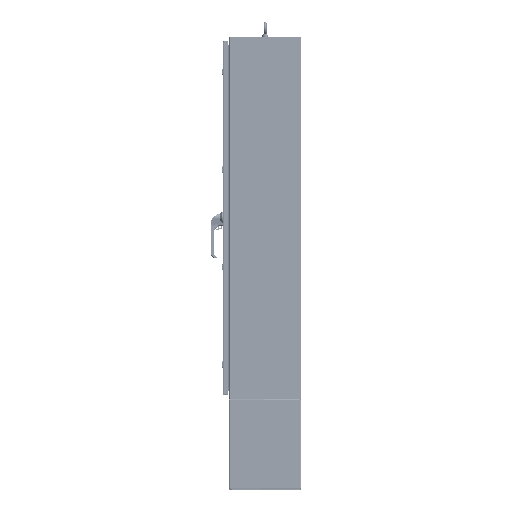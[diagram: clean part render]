
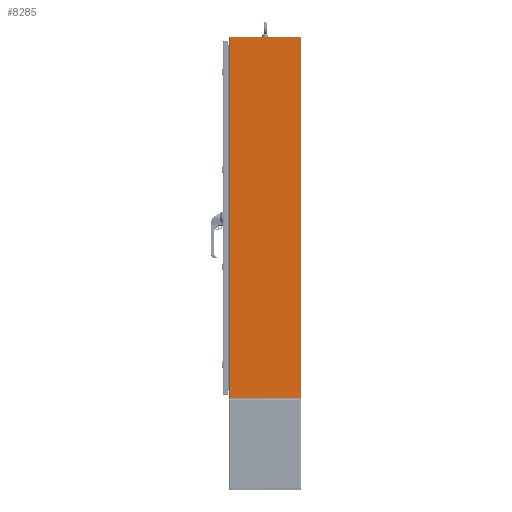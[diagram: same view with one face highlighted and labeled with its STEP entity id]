
A CAD part, top view. The second image highlights one B-rep face of the part: STEP entity #8285.
In plain terms, the highlighted planar face has unit normal (0, 0, 1) as drawn and (-1, 0, 0) by its records, which use the part's own axes.
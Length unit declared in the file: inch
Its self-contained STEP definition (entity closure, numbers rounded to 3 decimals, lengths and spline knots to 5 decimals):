
#7034=CARTESIAN_POINT('',(-3.6355,9.7005,-59.732));
#7035=DIRECTION('',(-1.,0.,0.));
#7036=DIRECTION('',(0.,1.,0.));
#7037=AXIS2_PLACEMENT_3D('',#7034,#7035,#7036);
#7042=DIRECTION('',(0.,0.,-1.));
#7043=VECTOR('',#7042,59.672);
#7044=CARTESIAN_POINT('',(-3.6355,9.7605,-0.06));
#7045=LINE('',#7044,#7043);
#7049=CARTESIAN_POINT('',(-3.6355,9.7005,-0.06));
#7050=DIRECTION('',(-1.,0.,0.));
#7051=DIRECTION('',(0.,0.,1.));
#7052=AXIS2_PLACEMENT_3D('',#7049,#7050,#7051);
#7064=DIRECTION('',(0.,-1.,0.));
#7065=VECTOR('',#7064,11.6415);
#7066=CARTESIAN_POINT('',(-3.6355,9.7005,-59.792));
#7067=LINE('',#7066,#7065);
#7107=DIRECTION('',(0.,0.,-1.));
#7108=VECTOR('',#7107,59.792);
#7109=CARTESIAN_POINT('',(-3.6355,-1.941,0.));
#7110=LINE('',#7109,#7108);
#7284=DIRECTION('',(0.,-1.,0.));
#7285=VECTOR('',#7284,11.6415);
#7286=CARTESIAN_POINT('',(-3.6355,9.7005,0.));
#7287=LINE('',#7286,#7285);
#8094=CARTESIAN_POINT('',(-3.6355,-1.941,-59.792));
#8095=VERTEX_POINT('',#8094);
#8096=CARTESIAN_POINT('',(-3.6355,-1.941,0.));
#8097=VERTEX_POINT('',#8096);
#8250=CARTESIAN_POINT('',(-3.6355,9.7605,-59.732));
#8251=CARTESIAN_POINT('',(-3.6355,9.7005,-59.792));
#8252=VERTEX_POINT('',#8250);
#8253=VERTEX_POINT('',#8251);
#8258=CARTESIAN_POINT('',(-3.6355,9.7005,0.));
#8259=CARTESIAN_POINT('',(-3.6355,9.7605,-0.06));
#8260=VERTEX_POINT('',#8258);
#8261=VERTEX_POINT('',#8259);
#8266=CARTESIAN_POINT('',(-3.6355,9.7605,0.));
#8267=DIRECTION('',(-1.,0.,0.));
#8268=DIRECTION('',(0.,-1.,0.));
#8269=AXIS2_PLACEMENT_3D('',#8266,#8267,#8268);
#8270=PLANE('',#8269);
#8272=ORIENTED_EDGE('',*,*,#8271,.F.);
#8274=ORIENTED_EDGE('',*,*,#8273,.F.);
#8276=ORIENTED_EDGE('',*,*,#8275,.F.);
#8278=ORIENTED_EDGE('',*,*,#8277,.T.);
#8280=ORIENTED_EDGE('',*,*,#8279,.T.);
#8282=ORIENTED_EDGE('',*,*,#8281,.F.);
#8283=EDGE_LOOP('',(#8272,#8274,#8276,#8278,#8280,#8282));
#8284=FACE_OUTER_BOUND('',#8283,.F.);
#7038=CIRCLE('',#7037,0.06);
#7053=CIRCLE('',#7052,0.06);
#8271=EDGE_CURVE('',#8252,#8253,#7038,.T.);
#8273=EDGE_CURVE('',#8261,#8252,#7045,.T.);
#8275=EDGE_CURVE('',#8260,#8261,#7053,.T.);
#8277=EDGE_CURVE('',#8260,#8097,#7287,.T.);
#8279=EDGE_CURVE('',#8097,#8095,#7110,.T.);
#8281=EDGE_CURVE('',#8253,#8095,#7067,.T.);
#8285=ADVANCED_FACE('',(#8284),#8270,.T.);
